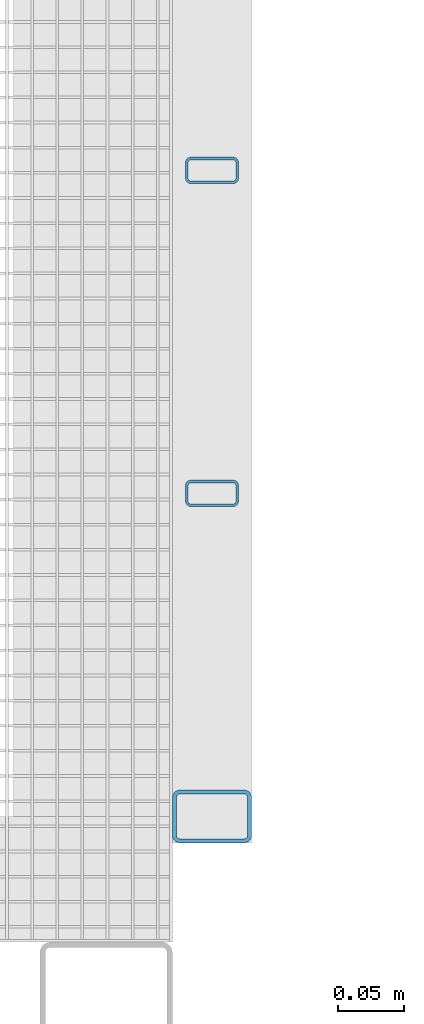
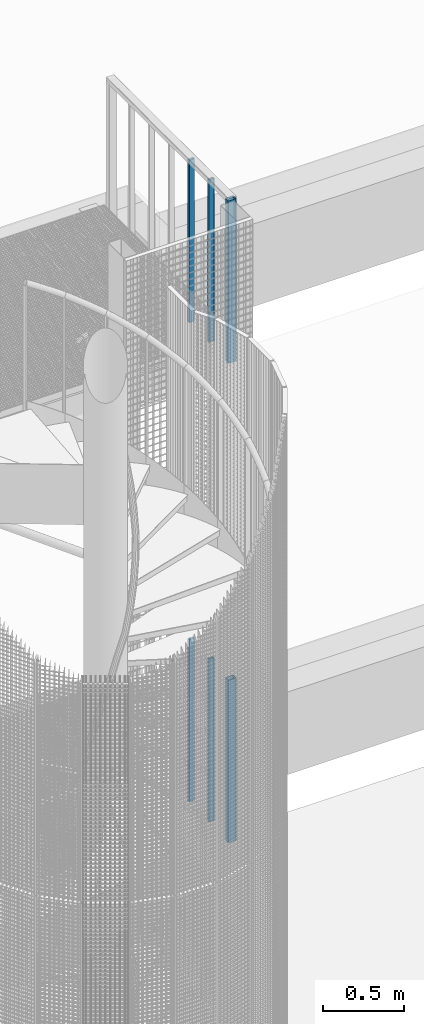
# One storey, part 32 of 1183: 6 columns, 6 elements without a shape of their own.
"""IFC2X3 building model written with IfcOpenShell, lengths in millimetres."""

import ifcopenshell
import ifcopenshell.guid

model = None  # the IFC model being written
_history = None  # IfcOwnerHistory: only IFC2X3 demands one
_inside = {}  # id of a spatial element -> (the spatial element, [elements in it])
_under = {}  # id of a project, library or spatial element -> (it, [spatial elements below it])
_declared = {}  # id of a project -> (the project, [libraries it declares])
_typed = {}  # id of a type object -> (the type object, [elements of that type])
_made_of = {}  # id of a material, layer set ... -> (it, [elements and type objects made of it])


def new_model(schema):
    """Start an empty IFC model of exactly this schema.

    Asked for "IFC4X3", IfcOpenShell would pick the latest addendum, in which some entities
    have other attributes; the version numbers below select the first issue.
    IFC2X3 requires an IfcOwnerHistory on every rooted entity: one is made here for all.
    """
    global model, _history
    if schema == "IFC4X3":
        model = ifcopenshell.file(schema_version=(4, 3, 0, 0))
    else:
        model = ifcopenshell.file(schema=schema)
    _inside.clear()
    _under.clear()
    _declared.clear()
    _typed.clear()
    _made_of.clear()
    _history = None
    if model.schema == "IFC2X3":
        org = make("IfcOrganization", Name="unknown")
        user = make(
            "IfcPersonAndOrganization",
            ThePerson=make("IfcPerson", FamilyName="unknown"),
            TheOrganization=org,
        )
        app = make(
            "IfcApplication",
            ApplicationDeveloper=org,
            Version="unknown",
            ApplicationFullName="unknown",
            ApplicationIdentifier="unknown",
        )
        _history = make(
            "IfcOwnerHistory",
            OwningUser=user,
            OwningApplication=app,
            ChangeAction="ADDED",
            CreationDate=0,
        )
    return model


def make(cls, **values):
    """One entity of the class cls with the attributes given. An attribute that is None is left unset."""
    return model.create_entity(
        cls, **{name: value for name, value in values.items() if value is not None}
    )


def rooted(cls, **values):
    """An entity with a GlobalId (a new one), such as an element, a storey or a relation."""
    return make(cls, GlobalId=ifcopenshell.guid.new(), OwnerHistory=_history, **values)


def si_unit(unit_type, name, prefix=None):
    """IfcSIUnit, for example si_unit("LENGTHUNIT", "METRE", prefix="MILLI")."""
    return make("IfcSIUnit", UnitType=unit_type, Prefix=prefix, Name=name)


def assignment(units):
    """IfcUnitAssignment: the units of a project."""
    return None if units is None else make("IfcUnitAssignment", Units=units)


def point(xyz):
    """IfcCartesianPoint."""
    return None if xyz is None else make("IfcCartesianPoint", Coordinates=xyz)


def direction(xyz):
    """IfcDirection."""
    return None if xyz is None else make("IfcDirection", DirectionRatios=xyz)


def frame(location, z_axis=None, x_axis=None):
    """IfcAxis2Placement3D, a coordinate frame: its origin and axes. An axis left out is left unset."""
    return make(
        "IfcAxis2Placement3D",
        Location=point(location),
        Axis=direction(z_axis),
        RefDirection=direction(x_axis),
    )


def frame_2d(location, x_axis=None):
    """IfcAxis2Placement2D, a coordinate frame in the plane: its origin and x axis."""
    return make(
        "IfcAxis2Placement2D", Location=point(location), RefDirection=direction(x_axis)
    )


def origin_with_axes():
    """The frame at (0, 0, 0) with the z axis (0, 0, 1) and the x axis (1, 0, 0) written out."""
    return frame((0.0, 0.0, 0.0), z_axis=(0.0, 0.0, 1.0), x_axis=(1.0, 0.0, 0.0))


def origin_2d_with_axis():
    """The frame at (0, 0) in the plane with the x axis (1, 0) written out."""
    return frame_2d((0.0, 0.0), x_axis=(1.0, 0.0))


def place(relative_to, where):
    """IfcLocalPlacement: puts the frame where relative to a parent placement (None: the world)."""
    return make(
        "IfcLocalPlacement", PlacementRelTo=relative_to, RelativePlacement=where
    )


def context(
    kind, dimensions, precision=None, world=None, true_north=None, identifier=None
):
    """IfcGeometricRepresentationContext, for example the 3D "Model" context."""
    return make(
        "IfcGeometricRepresentationContext",
        ContextIdentifier=identifier,
        ContextType=kind,
        CoordinateSpaceDimension=dimensions,
        Precision=precision,
        WorldCoordinateSystem=world,
        TrueNorth=true_north,
    )


def subcontext(parent, identifier, kind, view, scale=None):
    """IfcGeometricRepresentationSubContext, for example "Body" below "Model"."""
    return make(
        "IfcGeometricRepresentationSubContext",
        ContextIdentifier=identifier,
        ContextType=kind,
        ParentContext=parent,
        TargetScale=scale,
        TargetView=view,
    )


def project(units=None, contexts=None):
    """IfcProject with its units and contexts."""
    return rooted(
        "IfcProject",
        Name="project",
        RepresentationContexts=contexts,
        UnitsInContext=assignment(units),
    )


def spatial(cls, under=None, at=None, **own):
    """A site, building, storey or space (cls), placed at a placement, below another one or the project."""
    s = rooted(cls, ObjectPlacement=at, **own)
    if under is not None:
        _under.setdefault(under.id(), (under, []))[1].append(s)
    return s


def profile(cls, at=None, kind="AREA", **sizes):
    """A parametric profile (cls). Its sizes go by their IFC names, for example OverallWidth=200.0."""
    return make(cls, ProfileType=kind, Position=at, **sizes)


def hollow_rectangle(**sizes):
    """IfcRectangleHollowProfileDef."""
    return profile("IfcRectangleHollowProfileDef", **sizes)


def extrude(swept, where, along, depth):
    """IfcExtrudedAreaSolid: the profile swept, set in the frame where, extruded along a direction by depth."""
    return make(
        "IfcExtrudedAreaSolid",
        SweptArea=swept,
        Position=where,
        ExtrudedDirection=direction(along),
        Depth=depth,
    )


def shape(context_of_items, identifier, shape_type, items):
    """IfcShapeRepresentation: the items that make up one representation, for example the "Body"."""
    return make(
        "IfcShapeRepresentation",
        ContextOfItems=context_of_items,
        RepresentationIdentifier=identifier,
        RepresentationType=shape_type,
        Items=items,
    )


def material(Name=None, Category=None):
    """IfcMaterial."""
    return make("IfcMaterial", Name=Name, Category=Category)


def made_of(thing, what):
    """Note that an element or type object is made of a material, layer set ...; save() writes the relation."""
    if what is not None:
        _made_of.setdefault(what.id(), (what, []))[1].append(thing)
    return thing


def type_object(cls, material=None, **own):
    """A type object (cls), such as IfcWallType, which elements share."""
    return made_of(rooted(cls, **own), material)


def element(
    cls,
    number,
    at=None,
    inside=None,
    cuts=None,
    type_object=None,
    material=None,
    context=None,
    identifier="Body",
    shape_type=None,
    held_by="IfcProductDefinitionShape",
    body=None,
    shapes=None,
    **own,
):
    """One element of the class cls, such as IfcWall. Its Tag is "e" and its number.

    at: its placement. inside: the storey or other place that contains it. cuts: it is an
    opening in that element (IfcRelVoidsElement). A single representation is given by context,
    identifier, shape_type and body (its items); several are given by shapes. held_by: the class
    of the entity that holds the representations. save() writes the other relations.
    """
    e = rooted(cls, Tag="e%d" % number, ObjectPlacement=at, **own)
    if body is not None:
        shapes = [shape(context, identifier, shape_type, body)]
    if shapes is not None:
        e.Representation = make(held_by, Representations=shapes)
    if inside is not None:
        _inside.setdefault(inside.id(), (inside, []))[1].append(e)
    if cuts is not None:
        rooted(
            "IfcRelVoidsElement", RelatingBuildingElement=cuts, RelatedOpeningElement=e
        )
    if type_object is not None:
        _typed.setdefault(type_object.id(), (type_object, []))[1].append(e)
    return made_of(e, material)


def aggregate(whole, parts):
    """IfcRelAggregates: a whole, such as a stair, and the parts it consists of."""
    return rooted("IfcRelAggregates", RelatingObject=whole, RelatedObjects=parts)


def save(model, path):
    """Write the relations noted so far, then the file.

    IfcRelAggregates (storeys below a building ...), IfcRelContainedInSpatialStructure (elements
    in a storey), IfcRelDefinesByType, IfcRelAssociatesMaterial and IfcRelDeclares: one each for
    every whole, place, type object, material and project.
    """
    for whole, parts in _under.values():
        aggregate(whole, parts)
    for where, things in _inside.values():
        rooted(
            "IfcRelContainedInSpatialStructure",
            RelatedElements=things,
            RelatingStructure=where,
        )
    for kind, things in _typed.values():
        rooted("IfcRelDefinesByType", RelatedObjects=things, RelatingType=kind)
    for what, things in _made_of.values():
        rooted("IfcRelAssociatesMaterial", RelatedObjects=things, RelatingMaterial=what)
    for by, libraries in _declared.values():
        rooted("IfcRelDeclares", RelatingContext=by, RelatedDefinitions=libraries)
    model.write(path)


model = new_model("IFC2X3")

# Units and contexts
model_context = context("Model", 3, precision=1e-05, world=origin_with_axes())
body_context = subcontext(model_context, "Body", "Model", "MODEL_VIEW")
ifc_project = project(units=[si_unit("LENGTHUNIT", "METRE", prefix="MILLI"), si_unit("AREAUNIT", "SQUARE_METRE"), si_unit("VOLUMEUNIT", "CUBIC_METRE"), si_unit("MASSUNIT", "GRAM", prefix="KILO"), si_unit("TIMEUNIT", "SECOND"), si_unit("PLANEANGLEUNIT", "RADIAN"), si_unit("SOLIDANGLEUNIT", "STERADIAN"), si_unit("THERMODYNAMICTEMPERATUREUNIT", "DEGREE_CELSIUS"), si_unit("LUMINOUSINTENSITYUNIT", "LUMEN")], contexts=[model_context])

# Site, building, storey
site_placement = place(None, origin_with_axes())
site = spatial("IfcSite", under=ifc_project, at=site_placement, Name="Undefined", CompositionType="ELEMENT")
building_placement = place(site_placement, origin_with_axes())
building = spatial("IfcBuilding", under=site, at=building_placement, Name="Undefined", CompositionType="ELEMENT")
storey_placement = place(building_placement, origin_with_axes())
storey = spatial("IfcBuildingStorey", under=building, at=storey_placement, Name="Undefined", CompositionType="ELEMENT", Elevation=0.0)

# Assembly, column
assembly_1_placement = place(storey_placement, origin_with_axes())
assembly_1 = element("IfcElementAssembly", 1, at=assembly_1_placement, inside=storey, Name="STANCHION", AssemblyPlace="NOTDEFINED", PredefinedType="NOTDEFINED")
ifc_material = material(Name="Undefined/FE510D")
column_type_1 = type_object("IfcColumnType", Name="TUBE-R-40*20*2", PredefinedType="NOTDEFINED")
column_1_placement = place(assembly_1_placement, frame((1580.0682041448, 1683.34979617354, 17020.0), z_axis=(0.0, 0.0, 1.0), x_axis=(0.999999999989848, 4.50600000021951e-06, 0.0)))
column_1 = element("IfcColumn", 2, at=column_1_placement, type_object=column_type_1, material=ifc_material, Name="STANCHION", context=body_context, shape_type="SweptSolid", body=[
    extrude(hollow_rectangle(XDim=20.0, YDim=40.0, WallThickness=2.0, InnerFilletRadius=2.0, OuterFilletRadius=4.0, at=origin_2d_with_axis()), frame((0.0, 0.0, 1219.99999999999), z_axis=(0.0, 0.0, -1.0), x_axis=(0.0, 1.0, 0.0)), (0.0, 0.0, 1.0), 1220.0),
])
aggregate(assembly_1, [column_1])

assembly_2_placement = place(storey_placement, origin_with_axes())
assembly_2 = element("IfcElementAssembly", 3, at=assembly_2_placement, inside=storey, Name="STANCHION", AssemblyPlace="NOTDEFINED", PredefinedType="NOTDEFINED")
column_2_placement = place(assembly_2_placement, frame((1580.06930437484, 1439.17979617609, 17020.0), z_axis=(0.0, 0.0, 1.0), x_axis=(0.999999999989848, 4.50600000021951e-06, 0.0)))
column_2 = element("IfcColumn", 4, at=column_2_placement, type_object=column_type_1, material=ifc_material, Name="STANCHION", context=body_context, shape_type="SweptSolid", body=[
    extrude(hollow_rectangle(XDim=20.0, YDim=40.0, WallThickness=2.0, InnerFilletRadius=2.0, OuterFilletRadius=4.0, at=origin_2d_with_axis()), frame((0.0, 0.0, 1219.99999999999), z_axis=(0.0, 0.0, -1.0), x_axis=(0.0, 1.0, 0.0)), (0.0, 0.0, 1.0), 1220.0),
])
aggregate(assembly_2, [column_2])

assembly_3_placement = place(storey_placement, origin_with_axes())
assembly_3 = element("IfcElementAssembly", 5, at=assembly_3_placement, inside=storey, Name="STANCHION", AssemblyPlace="NOTDEFINED", PredefinedType="NOTDEFINED")
column_3_placement = place(assembly_3_placement, frame((1580.0682041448, 1683.34979617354, 13420.0), z_axis=(0.0, 0.0, 1.0), x_axis=(0.999999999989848, 4.50600000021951e-06, 0.0)))
column_3 = element("IfcColumn", 6, at=column_3_placement, type_object=column_type_1, material=ifc_material, Name="STANCHION", context=body_context, shape_type="SweptSolid", body=[
    extrude(hollow_rectangle(XDim=20.0, YDim=40.0, WallThickness=2.0, InnerFilletRadius=2.0, OuterFilletRadius=4.0, at=origin_2d_with_axis()), frame((0.0, 0.0, 1219.99999999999), z_axis=(0.0, 0.0, -1.0), x_axis=(0.0, 1.0, 0.0)), (0.0, 0.0, 1.0), 1220.0),
])
aggregate(assembly_3, [column_3])

assembly_4_placement = place(storey_placement, origin_with_axes())
assembly_4 = element("IfcElementAssembly", 7, at=assembly_4_placement, inside=storey, Name="STANCHION", AssemblyPlace="NOTDEFINED", PredefinedType="NOTDEFINED")
column_4_placement = place(assembly_4_placement, frame((1580.06930437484, 1439.17979617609, 13420.0), z_axis=(0.0, 0.0, 1.0), x_axis=(0.999999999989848, 4.50600000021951e-06, 0.0)))
column_4 = element("IfcColumn", 8, at=column_4_placement, type_object=column_type_1, material=ifc_material, Name="STANCHION", context=body_context, shape_type="SweptSolid", body=[
    extrude(hollow_rectangle(XDim=20.0, YDim=40.0, WallThickness=2.0, InnerFilletRadius=2.0, OuterFilletRadius=4.0, at=origin_2d_with_axis()), frame((0.0, 0.0, 1219.99999999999), z_axis=(0.0, 0.0, -1.0), x_axis=(0.0, 1.0, 0.0)), (0.0, 0.0, 1.0), 1220.0),
])
aggregate(assembly_4, [column_4])

assembly_5_placement = place(storey_placement, origin_with_axes())
assembly_5 = element("IfcElementAssembly", 9, at=assembly_5_placement, inside=storey, Name="STANCHION", AssemblyPlace="NOTDEFINED", PredefinedType="NOTDEFINED")
column_type_2 = type_object("IfcColumnType", Name="TUBE-R-60*40*3", PredefinedType="NOTDEFINED")
column_5_placement = place(assembly_5_placement, frame((1580.07043456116, 1195.01007484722, 17020.0), z_axis=(0.0, 0.0, 1.0), x_axis=(0.999999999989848, 4.50600000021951e-06, 0.0)))
column_5 = element("IfcColumn", 10, at=column_5_placement, type_object=column_type_2, material=ifc_material, Name="STANCHION", context=body_context, shape_type="SweptSolid", body=[
    extrude(hollow_rectangle(XDim=40.0, YDim=60.0, WallThickness=3.0, InnerFilletRadius=3.0, OuterFilletRadius=6.0, at=origin_2d_with_axis()), frame((0.0, 0.0, 1219.99999999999), z_axis=(0.0, 0.0, -1.0), x_axis=(0.0, 1.0, 0.0)), (0.0, 0.0, 1.0), 1220.0),
])
aggregate(assembly_5, [column_5])

assembly_6_placement = place(storey_placement, origin_with_axes())
assembly_6 = element("IfcElementAssembly", 11, at=assembly_6_placement, inside=storey, Name="STANCHION", AssemblyPlace="NOTDEFINED", PredefinedType="NOTDEFINED")
column_6_placement = place(assembly_6_placement, frame((1580.07043456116, 1195.01007484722, 13420.0), z_axis=(0.0, 0.0, 1.0), x_axis=(0.999999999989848, 4.50600000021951e-06, 0.0)))
column_6 = element("IfcColumn", 12, at=column_6_placement, type_object=column_type_2, material=ifc_material, Name="STANCHION", context=body_context, shape_type="SweptSolid", body=[
    extrude(hollow_rectangle(XDim=40.0, YDim=60.0, WallThickness=3.0, InnerFilletRadius=3.0, OuterFilletRadius=6.0, at=origin_2d_with_axis()), frame((0.0, 0.0, 1219.99999999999), z_axis=(0.0, 0.0, -1.0), x_axis=(0.0, 1.0, 0.0)), (0.0, 0.0, 1.0), 1220.0),
])
aggregate(assembly_6, [column_6])

save(model, "model.ifc")
